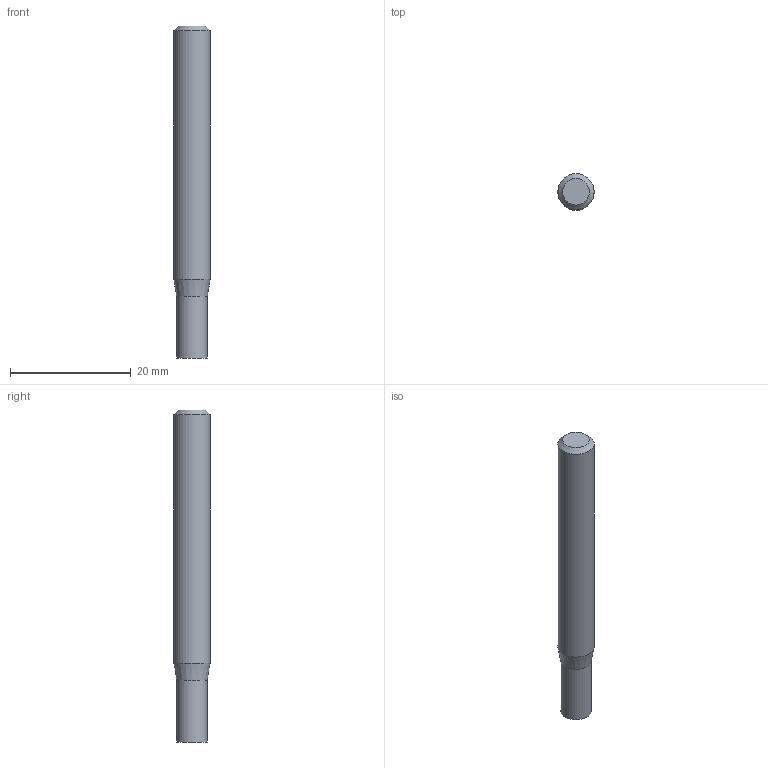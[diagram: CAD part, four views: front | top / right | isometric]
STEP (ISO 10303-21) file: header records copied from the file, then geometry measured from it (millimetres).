
FILE_DESCRIPTION((''),'2;1');
FILE_NAME('C:\Users\nsx150\AppData\Local\Temp\Mastercam 2021\98T1Q6BTT1\TEMP.step','2021-10-21T14:48:48',(''),(''),'STEP Write','Mastercam 2021 ... CNC Software, Inc.','');
FILE_SCHEMA(('AUTOMOTIVE_DESIGN'));
Length unit declared in the file: millimetre
Products named in the file (1): None
Bounding box: 6 x 6 x 55 mm (x, y, z)
Volume: 1458.1 mm3; surface area: 1084.4 mm2
Topology: 2 solids, 2 shells, 8 faces, 10 edges, 6 vertices
Faces by surface type: plane 4, cylinder 2, cone 2
Full cylindrical faces by diameter (mm): 5.1 x1, 6 x1
Entity records: 190 total; most frequent: DIRECTION 32, CARTESIAN_POINT 22, AXIS2_PLACEMENT_3D 16, ORIENTED_EDGE 12, EDGE_LOOP 12, STYLED_ITEM 11, ADVANCED_FACE 8, VERTEX_POINT 6
